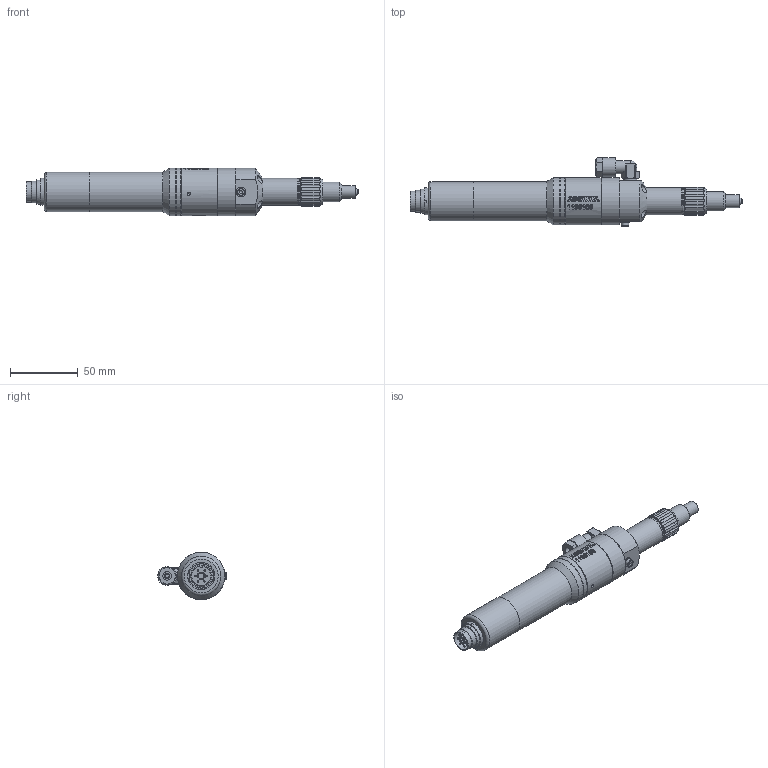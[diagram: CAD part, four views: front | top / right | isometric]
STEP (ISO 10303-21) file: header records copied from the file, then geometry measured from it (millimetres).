
FILE_DESCRIPTION(/* description */ (''),/* implementation_level */ '2;1');
FILE_NAME(/* name */ 'A:\3D Projects\Rotor Pumps, Mike Andrade\1196160-97611 Compact Rotor Pump Dispenser 4.0 3D\1196160 97611 Compact Rotor Pump Dispenser 4.0.stp',/* time_stamp */ '2014-11-19T11:58:06-05:00',/* author */ ('patch'),/* organization */ (''),/* preprocessor_version */ 'ST-DEVELOPER v15.6',/* originating_system */ 'Autodesk Inventor 2015',/* authorisation */ '');
FILE_SCHEMA (('AUTOMOTIVE_DESIGN { 1 0 10303 214 3 1 1 }'));
Length unit declared in the file: millimetre
Products named in the file (31): 20217_extern; 20216; 20018; 20247; DIN 912 M3 x 25 --- 18C_DIN 912 M3 x 25 --- 18C; 130316; 130327; 130469_Externdaten; 130458_Farblos Eloxiert; 130566_NBR; 20243; Washer DIN 125 - A 3.2 - 300HV_Washer DIN 125 - A 3.2 - 300HV; DIN 912 M3 x 6 --- 6S_DIN 912 M3 x 6 --- 6S; 20214_extern; Socket Head Cap Screw_DIN_DIN 912 M3 x 20 --- 20C; 20213 Body With Both Logos Part Artwork; 20210_extern; 20211_Externdaten; Parallel Pin ISO 8734 - 2 x 8 - A - St_Parallel Pin ISO 8734 - 2 x 8 
- A - St; 20049; 20050; 130339_eco-PEN450; DIN 913 - M3 x 3-C_DIN 913 - M3 x 3-C; 20232; 20032; 21035_Externdaten; 21034_Externdaten; 20832; 20498_Version A - Standard; 8964918 Product Fitting; 1196160 97611 Compact Rotor Pump Dispenser 4.0
Assembly tree (35 placements, depth 4):
  1196160 97611 Compact Rotor Pump Dispenser 4.0
    20210_extern
      20217_extern
      20216
      20247
        20018
      DIN 912 M3 x 25 --- 18C_DIN 912 M3 x 25 --- 18C  x4
      130316
      130327
      20243
        130469_Externdaten
        130458_Farblos Eloxiert
        130566_NBR
      Washer DIN 125 - A 3.2 - 300HV_Washer DIN 125 - A 3.2 - 300HV
      DIN 912 M3 x 6 --- 6S_DIN 912 M3 x 6 --- 6S
      20214_extern
      Socket Head Cap Screw_DIN_DIN 912 M3 x 20 --- 20C  x3
      20213 Body With Both Logos Part Artwork
    20498_Version A - Standard
      20211_Externdaten
      Parallel Pin ISO 8734 - 2 x 8 - A - St_Parallel Pin ISO 8734 - 2 x 8 
- A - St
      20049
      20050
      130339_eco-PEN450
      DIN 913 - M3 x 3-C_DIN 913 - M3 x 3-C
      20232
      20032
      21035_Externdaten
      21034_Externdaten
      20832
    8964918 Product Fitting
Bounding box: 245.08 x 50.63 x 35.08 mm (x, y, z)
Volume: 147488.5 mm3; surface area: 49342.1 mm2
Topology: 31 solids, 31 shells, 1622 faces, 4141 edges, 2694 vertices
Faces by surface type: plane 1068, cylinder 314, cone 106, bspline 70, torus 41, sphere 23
Full cylindrical faces by diameter (mm): 0.6 x14, 0.7 x14, 1 x14, 1.307 x1, 1.567 x1, 2 x5, 2.5 x4, 3 x11, 3.1 x4, 3.2 x2, 3.3 x4, 3.979 x2, 4 x2, 5.5 x12, 5.6 x4, 6.3 x1, 7 x1, 7.19 x1, 8 x1, 8.566 x1, 9.5 x2, 9.73 x2, 10 x2, 11 x1, 12.5 x1, 13 x2, 14 x1, 14.4 x1, 14.5 x1, 14.6 x1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
Entity records: 50486 total; most frequent: CARTESIAN_POINT 12141, DIRECTION 8296, ORIENTED_EDGE 7170, EDGE_CURVE 3584, AXIS2_PLACEMENT_3D 3473, VERTEX_POINT 2473, EDGE_LOOP 1911, FACE_OUTER_BOUND 1517
